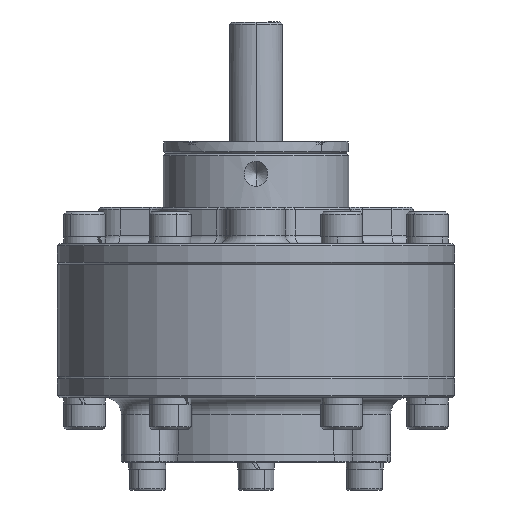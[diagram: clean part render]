
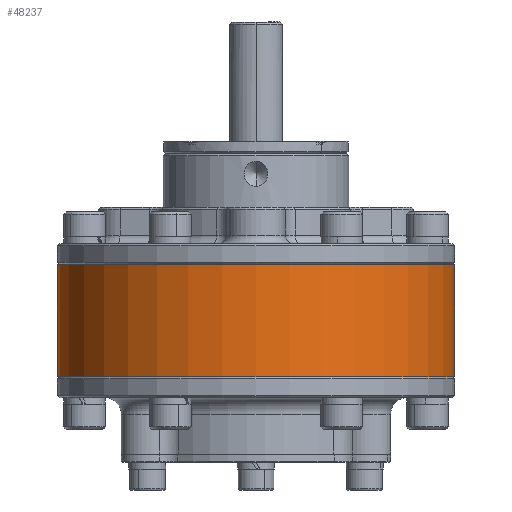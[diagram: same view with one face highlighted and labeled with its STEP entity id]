
A CAD part, front view. The second image highlights one B-rep face of the part: STEP entity #48237.
In plain terms, the highlighted cylindrical face has radius 47.5 mm (diameter 95 mm), a partial arc.
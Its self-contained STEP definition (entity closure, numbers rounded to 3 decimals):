
#988 = EDGE_CURVE ( 'NONE', #2388, #5029, #56985, .T. ) ;
#1031 = CYLINDRICAL_SURFACE ( 'NONE', #64008, 47.5 ) ;
#2388 = VERTEX_POINT ( 'NONE', #5875 ) ;
#2834 = ORIENTED_EDGE ( 'NONE', *, *, #42874, .T. ) ;
#4013 = CIRCLE ( 'NONE', #18404, 47.5 ) ;
#5029 = VERTEX_POINT ( 'NONE', #55747 ) ;
#5226 = CARTESIAN_POINT ( 'NONE',  ( -47.5, 0., 40.629 ) ) ;
#5717 = DIRECTION ( 'NONE',  ( 1., 0., 0. ) ) ;
#5875 = CARTESIAN_POINT ( 'NONE',  ( -47.5, 0., -13.375 ) ) ;
#9592 = DIRECTION ( 'NONE',  ( 0., 0., 1. ) ) ;
#17541 = VERTEX_POINT ( 'NONE', #36570 ) ;
#17897 = DIRECTION ( 'NONE',  ( 0., 0., 1. ) ) ;
#18404 = AXIS2_PLACEMENT_3D ( 'NONE', #47434, #17897, #47653 ) ;
#18839 = DIRECTION ( 'NONE',  ( 0., 0., 1. ) ) ;
#19963 = CARTESIAN_POINT ( 'NONE',  ( 0., 0., 40.629 ) ) ;
#22119 = DIRECTION ( 'NONE',  ( -1., 0., 0. ) ) ;
#30962 = CIRCLE ( 'NONE', #63424, 47.5 ) ;
#34999 = FACE_OUTER_BOUND ( 'NONE', #39108, .T. ) ;
#35378 = VERTEX_POINT ( 'NONE', #46417 ) ;
#36570 = CARTESIAN_POINT ( 'NONE',  ( 47.5, 0., -13.375 ) ) ;
#36738 = CARTESIAN_POINT ( 'NONE',  ( 47.5, 0., 40.629 ) ) ;
#39108 = EDGE_LOOP ( 'NONE', ( #53094, #52799, #2834, #50243 ) ) ;
#40202 = DIRECTION ( 'NONE',  ( 0., 0., 1. ) ) ;
#40549 = EDGE_CURVE ( 'NONE', #17541, #2388, #30962, .T. ) ;
#41945 = LINE ( 'NONE', #36738, #55067 ) ;
#42874 = EDGE_CURVE ( 'NONE', #17541, #35378, #41945, .T. ) ;
#46417 = CARTESIAN_POINT ( 'NONE',  ( 47.5, 0., 13.375 ) ) ;
#46497 = DIRECTION ( 'NONE',  ( 0., 0., -1. ) ) ;
#47434 = CARTESIAN_POINT ( 'NONE',  ( 0., 0., 13.375 ) ) ;
#47653 = DIRECTION ( 'NONE',  ( 1., 0., 0. ) ) ;
#48237 = ADVANCED_FACE ( 'NONE', ( #34999 ), #1031, .T. ) ;
#50243 = ORIENTED_EDGE ( 'NONE', *, *, #50747, .F. ) ;
#50747 = EDGE_CURVE ( 'NONE', #5029, #35378, #4013, .T. ) ;
#51869 = CARTESIAN_POINT ( 'NONE',  ( 0., 0., -13.375 ) ) ;
#52799 = ORIENTED_EDGE ( 'NONE', *, *, #40549, .F. ) ;
#53094 = ORIENTED_EDGE ( 'NONE', *, *, #988, .F. ) ;
#55067 = VECTOR ( 'NONE', #18839, 1000. ) ;
#55493 = VECTOR ( 'NONE', #9592, 1000. ) ;
#55747 = CARTESIAN_POINT ( 'NONE',  ( -47.5, 0., 13.375 ) ) ;
#56985 = LINE ( 'NONE', #5226, #55493 ) ;
#63424 = AXIS2_PLACEMENT_3D ( 'NONE', #51869, #46497, #22119 ) ;
#64008 = AXIS2_PLACEMENT_3D ( 'NONE', #19963, #40202, #5717 ) ;
